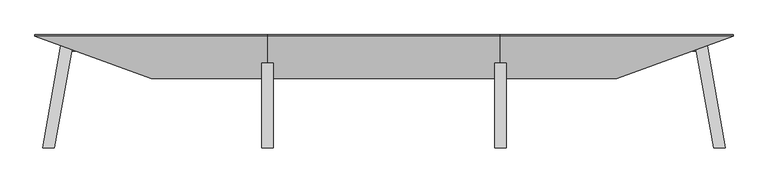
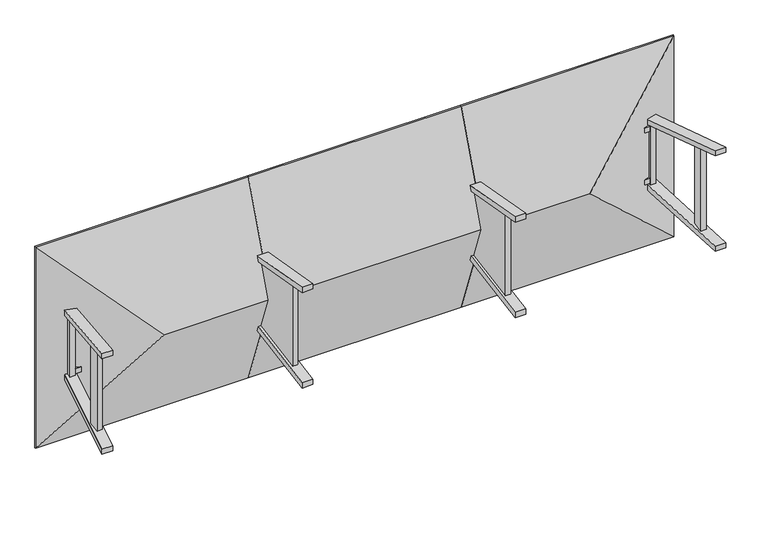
"""IFC4 building model written with IfcOpenShell, lengths in millimetres: proxy geometry, GRADIENT^TABLE 6A_CANTED LEGS-VERTICAL STRETCHERS."""

from ifc_helpers import new_model, si_unit, frame, origin, place, context, project, spatial, polyline, outline, extrude, faceted_brep, source, transform, mapped, element, save


def generic_models_4b72d3c3(model_context):
    return source(origin(), model_context, "Body", "SolidModel", [
        faceted_brep([(104.775, -482.6, -459.9961017), (142.875, -482.6, -459.9961017), (142.875, -482.6, -1064.0038983), (104.775, -482.6, -1064.0038983), (142.875, -558.8, -446.5599858), (142.875, -558.8, -1077.4400142), (104.775, -558.8, -446.5599858), (104.775, -558.8, -1077.4400142), (188.9037487, -76.2, -531.6553867), (188.9037487, 0.0, -545.0915026), (188.9037487, 0.0, -978.9084974), (188.9037487, -76.2, -992.3446133), (227.0037487, -76.2, -531.6553867), (227.0037487, -76.2, -992.3446133), (227.0037487, 0.0, -545.0915026), (227.0037487, 0.0, -978.9084974), (176.2037487, 0.0, -978.9084974), (50.8, -711.2, -1104.3122461), (128.1755078, -711.2, -1104.3122461), (253.5792565, 0.0, -978.9084974), (128.1755078, -711.2, -1143.0), (253.5792565, 0.0, -1017.5962513), (50.8, -711.2, -1143.0), (176.2037487, 0.0, -1017.5962513), (253.5792565, 0.0, -545.0915026), (128.1755078, -711.2, -419.6877539), (50.8, -711.2, -419.6877539), (176.2037487, 0.0, -545.0915026), (176.2037487, 0.0, -506.4037487), (50.8, -711.2, -381.0), (128.1755078, -711.2, -381.0), (253.5792565, 0.0, -506.4037487)], [[[0, 1, 2, 3]], [[1, 4, 5, 2]], [[4, 6, 7, 5]], [[6, 0, 3, 7]], [[8, 9, 10, 11]], [[12, 8, 11, 13]], [[14, 12, 13, 15]], [[15, 13, 11, 10, 16, 17, 18, 19], [3, 2, 5, 7]], [[19, 18, 20, 21]], [[18, 17, 22, 20]], [[17, 16, 23, 22]], [[22, 23, 21, 20]], [[9, 8, 12, 14, 24, 25, 26, 27], [1, 0, 6, 4]], [[28, 29, 30, 31]], [[28, 31, 24, 14, 15, 19, 21, 23, 16, 10, 9, 27]], [[29, 28, 27, 26]], [[31, 30, 25, 24]], [[30, 29, 26, 25]]]),
        extrude(outline(polyline([(1504.95, 0.0), (1504.95, -76.2), (227.0037487, -76.2), (227.0037487, 0.0), (1504.95, 0.0)])), frame((0.0, 0.0, -978.9084974), z_axis=(0.0, 0.0, 1.0), x_axis=(1.0, 0.0, 0.0)), (0.0, 0.0, 1.0), 38.1),
        extrude(outline(polyline([(1504.95, 0.0), (1504.95, -76.2), (227.0037487, -76.2), (227.0037487, 0.0), (1504.95, 0.0)])), frame((0.0, 0.0, -583.1915026), z_axis=(0.0, 0.0, 1.0), x_axis=(1.0, 0.0, 0.0)), (0.0, 0.0, 1.0), 38.1),
        faceted_brep([(4572.0, 31.75, 0.0), (4572.0, 31.75, -1524.0), (3048.0, 31.75, -1524.0), (3048.0, 31.75, 0.0), (3048.0, -255.1203185, -762.0), (3048.0, 22.225, 0.0), (3048.0, 22.225, -1524.0), (4572.0, 22.225, -1524.0), (3810.0, -255.1203185, -762.0), (4572.0, 22.225, 0.0)], [[[0, 1, 2, 3]], [[4, 5, 3, 2, 6]], [[7, 8, 4, 6]], [[5, 4, 8, 9]], [[9, 8, 7]], [[9, 7, 1, 0]], [[7, 6, 2, 1]], [[5, 9, 0, 3]]]),
        faceted_brep([(4429.125, -482.6, -459.9961017), (4467.225, -482.6, -459.9961017), (4467.225, -482.6, -1064.0038983), (4429.125, -482.6, -1064.0038983), (4429.125, -558.8, -446.5599858), (4429.125, -558.8, -1077.4400142), (4467.225, -558.8, -446.5599858), (4467.225, -558.8, -1077.4400142), (4383.0962513, 0.0, -545.0915026), (4383.0962513, -76.2, -531.6553867), (4383.0962513, -76.2, -992.3446133), (4383.0962513, 0.0, -978.9084974), (4344.9962513, -76.2, -531.6553867), (4344.9962513, -76.2, -992.3446133), (4344.9962513, 0.0, -545.0915026), (4344.9962513, 0.0, -978.9084974), (4318.4207435, 0.0, -978.9084974), (4443.8244922, -711.2, -1104.3122461), (4521.2, -711.2, -1104.3122461), (4395.7962513, 0.0, -978.9084974), (4318.4207435, 0.0, -1017.5962513), (4443.8244922, -711.2, -1143.0), (4521.2, -711.2, -1143.0), (4395.7962513, 0.0, -1017.5962513), (4395.7962513, 0.0, -545.0915026), (4521.2, -711.2, -419.6877539), (4443.8244922, -711.2, -419.6877539), (4318.4207435, 0.0, -545.0915026), (4521.2, -711.2, -381.0), (4395.7962513, 0.0, -506.4037487), (4318.4207435, 0.0, -506.4037487), (4443.8244922, -711.2, -381.0)], [[[0, 1, 2, 3]], [[4, 0, 3, 5]], [[6, 4, 5, 7]], [[1, 6, 7, 2]], [[8, 9, 10, 11]], [[9, 12, 13, 10]], [[12, 14, 15, 13]], [[13, 15, 16, 17, 18, 19, 11, 10], [3, 2, 7, 5]], [[17, 16, 20, 21]], [[18, 17, 21, 22]], [[19, 18, 22, 23]], [[23, 22, 21, 20]], [[9, 8, 24, 25, 26, 27, 14, 12], [1, 0, 4, 6]], [[28, 29, 30, 31]], [[30, 29, 24, 8, 11, 19, 23, 20, 16, 15, 14, 27]], [[29, 28, 25, 24]], [[31, 30, 27, 26]], [[28, 31, 26, 25]]]),
        extrude(outline(polyline([(3067.05, -76.2), (3067.05, 0.0), (4344.9962513, 0.0), (4344.9962513, -76.2), (3067.05, -76.2)])), frame((0.0, 0.0, -978.9084974), z_axis=(0.0, 0.0, 1.0), x_axis=(1.0, 0.0, 0.0)), (0.0, 0.0, 1.0), 38.1),
        extrude(outline(polyline([(3067.05, -76.2), (3067.05, 0.0), (4344.9962513, 0.0), (4344.9962513, -76.2), (3067.05, -76.2)])), frame((0.0, 0.0, -583.1915026), z_axis=(0.0, 0.0, 1.0), x_axis=(1.0, 0.0, 0.0)), (0.0, 0.0, 1.0), 38.1),
        faceted_brep([(1504.95, -558.8, -1077.4400142), (1504.95, 0.0, -978.9084974), (1485.9, 0.0, -978.9084974), (1485.9, -711.2, -1104.3122461), (1562.1, -711.2, -1104.3122461), (1562.1, 0.0, -978.9084974), (1543.05, 0.0, -978.9084974), (1543.05, -558.8, -1077.4400142), (1543.05, 0.0, -545.0915026), (1543.05, -558.8, -446.5599858), (1504.95, 0.0, -545.0915026), (1504.95, -558.8, -446.5599858), (1562.1, 0.0, -545.0915026), (1562.1, -711.2, -419.6877539), (1485.9, -711.2, -419.6877539), (1485.9, 0.0, -545.0915026), (1485.9, -711.2, -381.0), (1485.9, 0.0, -506.4037487), (1562.1, -711.2, -381.0), (1562.1, 0.0, -506.4037487), (1485.9, 0.0, -1017.5962513), (1485.9, -711.2, -1143.0), (1562.1, 0.0, -1017.5962513), (1562.1, -711.2, -1143.0)], [[[0, 1, 2, 3, 4, 5, 6, 7]], [[7, 6, 8, 9]], [[10, 11, 9, 8, 12, 13, 14, 15]], [[9, 11, 0, 7]], [[11, 10, 1, 0]], [[16, 17, 15, 14]], [[14, 13, 18, 16]], [[16, 18, 19, 17]], [[19, 18, 13, 12]], [[3, 2, 20, 21]], [[6, 5, 22, 20, 2, 1, 10, 15, 17, 19, 12, 8]], [[20, 22, 23, 21]], [[21, 23, 4, 3]], [[5, 4, 23, 22]]]),
        extrude(outline(polyline([(-255.1203185, -762.0), (22.225, 0.0), (31.75, 0.0), (31.75, -1524.0), (22.225, -1524.0), (-255.1203185, -762.0)])), frame((1524.0, 0.0, 0.0), z_axis=(1.0, 0.0, 0.0), x_axis=(0.0, 1.0, 0.0)), (0.0, 0.0, 1.0), 1524.0),
        faceted_brep([(3028.95, -558.8, -1077.4400142), (3028.95, 0.0, -978.9084974), (3009.9, 0.0, -978.9084974), (3009.9, -711.2, -1104.3122461), (3086.1, -711.2, -1104.3122461), (3086.1, 0.0, -978.9084974), (3067.05, 0.0, -978.9084974), (3067.05, -558.8, -1077.4400142), (3028.95, 0.0, -545.0915026), (3028.95, -558.8, -446.5599858), (3067.05, -558.8, -446.5599858), (3067.05, 0.0, -545.0915026), (3086.1, 0.0, -545.0915026), (3086.1, -711.2, -419.6877539), (3009.9, -711.2, -419.6877539), (3009.9, 0.0, -545.0915026), (3086.1, 0.0, -506.4037487), (3086.1, -711.2, -381.0), (3009.9, -711.2, -381.0), (3009.9, 0.0, -506.4037487), (3086.1, -711.2, -1143.0), (3086.1, 0.0, -1017.5962513), (3009.9, 0.0, -1017.5962513), (3009.9, -711.2, -1143.0)], [[[0, 1, 2, 3, 4, 5, 6, 7]], [[8, 9, 10, 11, 12, 13, 14, 15]], [[10, 9, 0, 7]], [[9, 8, 1, 0]], [[11, 10, 7, 6]], [[16, 17, 13, 12]], [[14, 13, 17, 18]], [[18, 17, 16, 19]], [[18, 19, 15, 14]], [[5, 4, 20, 21]], [[2, 1, 8, 15, 19, 16, 12, 11, 6, 5, 21, 22]], [[22, 21, 20, 23]], [[23, 20, 4, 3]], [[3, 2, 22, 23]]]),
        faceted_brep([(1524.0, 31.75, 0.0), (1524.0, 31.75, -1524.0), (0.0, 31.75, -1524.0), (0.0, 31.75, 0.0), (0.0, 22.225, 0.0), (762.0, -255.1203185, -762.0), (1524.0, -255.1203185, -762.0), (1524.0, 22.225, 0.0), (0.0, 22.225, -1524.0), (1524.0, 22.225, -1524.0)], [[[0, 1, 2, 3]], [[4, 5, 6, 7]], [[8, 5, 4]], [[6, 9, 1, 0, 7]], [[9, 6, 5, 8]], [[9, 8, 2, 1]], [[8, 4, 3, 2]], [[4, 7, 0, 3]]]),
    ])


if __name__ == "__main__":
    model = new_model("IFC4")
    model_context = context("Model", 3, world=origin())
    ifc_project = project(units=[si_unit("LENGTHUNIT", "METRE", prefix="MILLI")], contexts=[model_context])
    site = spatial("IfcSite", under=ifc_project)
    building = spatial("IfcBuilding", under=site)
    placement = place(None, origin())
    generic_models_shape = generic_models_4b72d3c3(model_context)
    element("IfcBuildingElementProxy", 1, Name="GRADIENT^TABLE 6A_CANTED LEGS-VERTICAL STRETCHERS", ObjectType="GRADIENT^TABLE 6A_CANTED LEGS-VERTICAL STRETCHERS", at=placement, inside=building, context=model_context, shape_type="MappedRepresentation", body=[
        mapped(generic_models_shape, transform((0.0, 0.0, 0.0), x_axis=(1.0, 0.0, 0.0), y_axis=(0.0, 1.0, 0.0), z_axis=(0.0, 0.0, 1.0))),
    ])
    save(model, "model.ifc")
